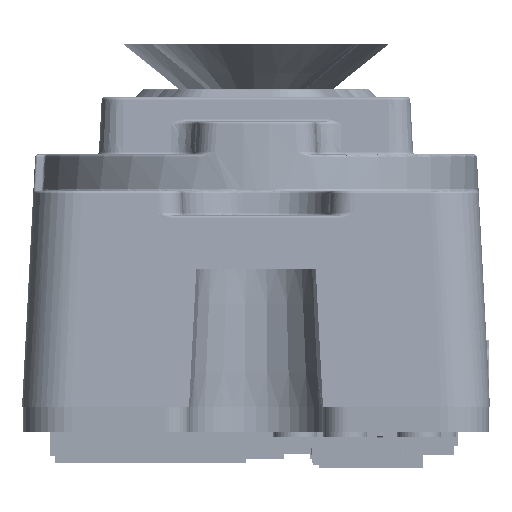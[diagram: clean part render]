
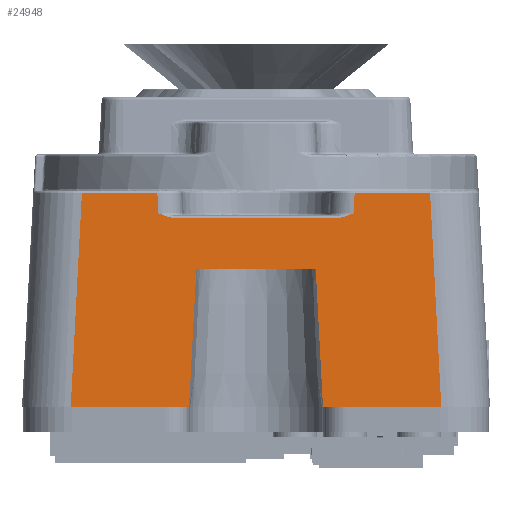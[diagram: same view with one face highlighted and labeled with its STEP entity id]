
A CAD part, left-side view. The second image highlights one B-rep face of the part: STEP entity #24948.
In plain terms, the highlighted planar face has unit normal (-0.999, 0, 0.052).
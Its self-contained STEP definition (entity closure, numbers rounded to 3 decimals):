
#188=CARTESIAN_POINT('',(-36.7,7.603,-13.48));
#190=DIRECTION('',(0.,-1.,0.));
#191=VECTOR('',#190,4.855);
#192=CARTESIAN_POINT('',(-36.7,7.603,-13.48));
#193=LINE('',#192,#191);
#207=DIRECTION('',(0.,-1.,0.));
#208=VECTOR('',#207,4.855);
#209=CARTESIAN_POINT('',(-36.7,-2.748,
-13.48));
#210=LINE('',#209,#208);
#757=CARTESIAN_POINT('',(-36.24,-7.142,
-4.695));
#774=DIRECTION('',(-0.052,-0.052,-0.997));
#775=VECTOR('',#774,0.813);
#776=CARTESIAN_POINT('',(-36.24,4.046,-4.695));
#777=LINE('',#776,#775);
#778=CARTESIAN_POINT('',(-36.282,4.004,-5.505));
#779=CARTESIAN_POINT('',(-36.282,4.004,-5.505));
#780=CARTESIAN_POINT('',(-36.282,3.99,-5.512));
#781=CARTESIAN_POINT('',(-36.283,3.962,-5.525));
#782=CARTESIAN_POINT('',(-36.284,3.919,-5.545));
#783=CARTESIAN_POINT('',(-36.285,3.877,-5.564));
#784=CARTESIAN_POINT('',(-36.286,3.834,-5.582));
#785=CARTESIAN_POINT('',(-36.287,3.805,-5.594));
#786=CARTESIAN_POINT('',(-36.287,3.791,-5.6));
#787=CARTESIAN_POINT('',(-36.287,3.791,-5.6));
#789=CARTESIAN_POINT('',(-36.287,-3.791,
-5.6));
#790=CARTESIAN_POINT('',(-36.287,-3.814,
-5.591));
#791=CARTESIAN_POINT('',(-36.286,-3.86,
-5.571));
#792=CARTESIAN_POINT('',(-36.284,-3.931,
-5.539));
#793=CARTESIAN_POINT('',(-36.283,-3.979,
-5.517));
#794=CARTESIAN_POINT('',(-36.282,-4.004,
-5.505));
#795=CARTESIAN_POINT('',(-36.282,-4.004,
-5.505));
#797=DIRECTION('',(0.052,-0.052,0.997));
#798=VECTOR('',#797,0.813);
#799=CARTESIAN_POINT('',(-36.282,-4.004,
-5.505));
#800=LINE('',#799,#798);
#801=DIRECTION('',(-0.052,-0.052,-0.997));
#802=VECTOR('',#801,8.809);
#803=CARTESIAN_POINT('',(-36.24,-7.142,
-4.695));
#804=LINE('',#803,#802);
#805=DIRECTION('',(0.,1.,0.));
#806=VECTOR('',#805,4.9);
#807=CARTESIAN_POINT('',(-36.402,-2.45,
-7.8));
#808=LINE('',#807,#806);
#809=DIRECTION('',(-0.052,0.052,-0.997));
#810=VECTOR('',#809,5.696);
#811=CARTESIAN_POINT('',(-36.402,2.45,-7.8));
#812=LINE('',#811,#810);
#813=DIRECTION('',(0.052,-0.052,0.997));
#814=VECTOR('',#813,8.809);
#815=CARTESIAN_POINT('',(-36.7,7.603,-13.48));
#816=LINE('',#815,#814);
#1029=DIRECTION('',(0.,1.,0.));
#1030=VECTOR('',#1029,3.096);
#1031=CARTESIAN_POINT('',(-36.24,4.046,
-4.695));
#1032=LINE('',#1031,#1030);
#1913=DIRECTION('',(0.,1.,0.));
#1914=VECTOR('',#1913,3.096);
#1915=CARTESIAN_POINT('',(-36.24,-7.142,
-4.695));
#1916=LINE('',#1915,#1914);
#1993=DIRECTION('',(0.,1.,0.));
#1994=VECTOR('',#1993,6.772);
#1995=CARTESIAN_POINT('',(-36.292,-3.386,
-5.695));
#1996=LINE('',#1995,#1994);
#1997=CARTESIAN_POINT('',(-36.287,-3.791,
-5.6));
#1998=CARTESIAN_POINT('',(-36.288,-3.746,
-5.619));
#1999=CARTESIAN_POINT('',(-36.29,-3.657,
-5.651));
#2000=CARTESIAN_POINT('',(-36.292,-3.507,
-5.688));
#2001=CARTESIAN_POINT('',(-36.292,-3.425,
-5.695));
#2002=CARTESIAN_POINT('',(-36.292,-3.386,
-5.695));
#2021=CARTESIAN_POINT('',(-36.292,3.386,
-5.695));
#2022=CARTESIAN_POINT('',(-36.292,3.427,
-5.695));
#2023=CARTESIAN_POINT('',(-36.292,3.511,
-5.687));
#2024=CARTESIAN_POINT('',(-36.29,3.644,
-5.655));
#2025=CARTESIAN_POINT('',(-36.288,3.741,
-5.62));
#2026=CARTESIAN_POINT('',(-36.287,3.791,
-5.6));
#2218=DIRECTION('',(-0.052,-0.052,-0.997));
#2219=VECTOR('',#2218,5.696);
#2220=CARTESIAN_POINT('',(-36.402,-2.45,
-7.8));
#2221=LINE('',#2220,#2219);
#19578=VERTEX_POINT('',#188);
#19579=CARTESIAN_POINT('',(-36.7,2.748,
-13.48));
#19580=VERTEX_POINT('',#19579);
#19585=CARTESIAN_POINT('',(-36.7,-2.748,
-13.48));
#19586=VERTEX_POINT('',#19585);
#19587=CARTESIAN_POINT('',(-36.7,-7.603,
-13.48));
#19588=VERTEX_POINT('',#19587);
#19822=VERTEX_POINT('',#757);
#19823=CARTESIAN_POINT('',(-36.24,4.046,
-4.695));
#19824=CARTESIAN_POINT('',(-36.282,4.004,
-5.505));
#19825=VERTEX_POINT('',#19823);
#19826=VERTEX_POINT('',#19824);
#19827=VERTEX_POINT('',#787);
#19828=VERTEX_POINT('',#2021);
#19829=CARTESIAN_POINT('',(-36.292,-3.386,
-5.695));
#19830=VERTEX_POINT('',#19829);
#19831=VERTEX_POINT('',#1997);
#19832=VERTEX_POINT('',#795);
#19833=CARTESIAN_POINT('',(-36.24,-4.046,-4.695));
#19834=VERTEX_POINT('',#19833);
#19835=CARTESIAN_POINT('',(-36.402,-2.45,
-7.8));
#19836=VERTEX_POINT('',#19835);
#19837=CARTESIAN_POINT('',(-36.402,2.45,
-7.8));
#19838=VERTEX_POINT('',#19837);
#19839=CARTESIAN_POINT('',(-36.24,7.142,
-4.695));
#19840=VERTEX_POINT('',#19839);
#24912=CARTESIAN_POINT('',(-36.7,9.6,-13.48));
#24913=DIRECTION('',(0.999,0.,-0.052));
#24914=DIRECTION('',(-0.052,0.,-0.999));
#24915=AXIS2_PLACEMENT_3D('',#24912,#24913,#24914);
#24916=PLANE('',#24915);
#24918=ORIENTED_EDGE('',*,*,#24917,.T.);
#24920=ORIENTED_EDGE('',*,*,#24919,.T.);
#24922=ORIENTED_EDGE('',*,*,#24921,.F.);
#24924=ORIENTED_EDGE('',*,*,#24923,.F.);
#24926=ORIENTED_EDGE('',*,*,#24925,.F.);
#24928=ORIENTED_EDGE('',*,*,#24927,.T.);
#24930=ORIENTED_EDGE('',*,*,#24929,.T.);
#24932=ORIENTED_EDGE('',*,*,#24931,.F.);
#24933=ORIENTED_EDGE('',*,*,#24907,.T.);
#24934=ORIENTED_EDGE('',*,*,#23769,.F.);
#24936=ORIENTED_EDGE('',*,*,#24935,.F.);
#24938=ORIENTED_EDGE('',*,*,#24937,.T.);
#24940=ORIENTED_EDGE('',*,*,#24939,.T.);
#24941=ORIENTED_EDGE('',*,*,#23761,.F.);
#24943=ORIENTED_EDGE('',*,*,#24942,.T.);
#24945=ORIENTED_EDGE('',*,*,#24944,.F.);
#24946=EDGE_LOOP('',(#24918,#24920,#24922,#24924,#24926,#24928,#24930,#24932,
#24933,#24934,#24936,#24938,#24940,#24941,#24943,#24945));
#24947=FACE_OUTER_BOUND('',#24946,.F.);
#24948=ADVANCED_FACE('',(#24947),#24916,.F.);
#788=B_SPLINE_CURVE_WITH_KNOTS('',3,(#778,#779,#780,#781,#782,#783,#784,#785,
#786,#787),.UNSPECIFIED.,.F.,.F.,(4,1,1,1,1,1,1,4),(0.,0.,
0.2,0.4,0.6,0.8,
1.,1.),.UNSPECIFIED.);
#796=B_SPLINE_CURVE_WITH_KNOTS('',3,(#789,#790,#791,#792,#793,#794,#795),
.UNSPECIFIED.,.F.,.F.,(4,1,1,1,4),(0.,0.316,0.644,
1.,1.),.UNSPECIFIED.);
#2003=B_SPLINE_CURVE_WITH_KNOTS('',3,(#1997,#1998,#1999,#2000,#2001,#2002),
.UNSPECIFIED.,.F.,.F.,(4,1,1,4),(0.,0.333,0.667,1.),
.UNSPECIFIED.);
#2027=B_SPLINE_CURVE_WITH_KNOTS('',3,(#2021,#2022,#2023,#2024,#2025,#2026),
.UNSPECIFIED.,.F.,.F.,(4,1,1,4),(0.,0.333,0.667,1.),
.UNSPECIFIED.);
#23761=EDGE_CURVE('',#19578,#19580,#193,.T.);
#23769=EDGE_CURVE('',#19586,#19588,#210,.T.);
#24907=EDGE_CURVE('',#19822,#19588,#804,.T.);
#24917=EDGE_CURVE('',#19825,#19826,#777,.T.);
#24919=EDGE_CURVE('',#19826,#19827,#788,.T.);
#24921=EDGE_CURVE('',#19828,#19827,#2027,.T.);
#24923=EDGE_CURVE('',#19830,#19828,#1996,.T.);
#24925=EDGE_CURVE('',#19831,#19830,#2003,.T.);
#24927=EDGE_CURVE('',#19831,#19832,#796,.T.);
#24929=EDGE_CURVE('',#19832,#19834,#800,.T.);
#24931=EDGE_CURVE('',#19822,#19834,#1916,.T.);
#24935=EDGE_CURVE('',#19836,#19586,#2221,.T.);
#24937=EDGE_CURVE('',#19836,#19838,#808,.T.);
#24939=EDGE_CURVE('',#19838,#19580,#812,.T.);
#24942=EDGE_CURVE('',#19578,#19840,#816,.T.);
#24944=EDGE_CURVE('',#19825,#19840,#1032,.T.);
